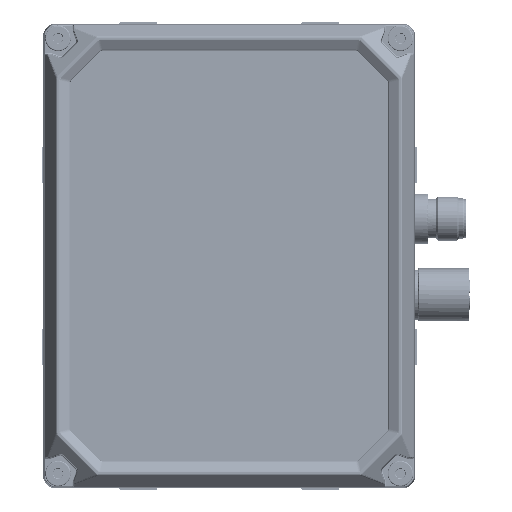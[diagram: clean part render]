
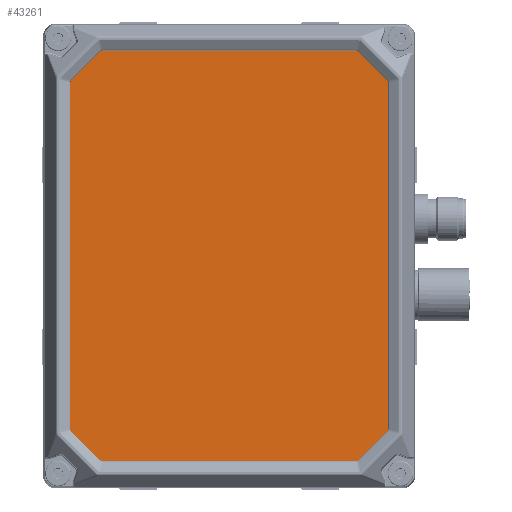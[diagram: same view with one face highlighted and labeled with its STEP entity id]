
A CAD part, top view. The second image highlights one B-rep face of the part: STEP entity #43261.
In plain terms, the highlighted planar face has unit normal (0, 0, 1).
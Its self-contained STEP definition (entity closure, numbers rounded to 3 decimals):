
#43261=ADVANCED_FACE('',(#52599),#46792,.F.);
#46792=PLANE('',#147945);
#52599=FACE_OUTER_BOUND('',#60115,.T.);
#60115=EDGE_LOOP('',(#90673,#90674,#90675,#90676,#90677,#90678,#90679,#90680,
#90681,#90682,#90683,#90684,#90685,#90686,#90687,#90688));
#63761=ELLIPSE('',#147937,1.001,1.);
#63762=ELLIPSE('',#147938,1.001,1.);
#63763=ELLIPSE('',#147939,1.001,1.);
#63764=ELLIPSE('',#147940,1.001,1.);
#63765=ELLIPSE('',#147941,1.001,1.);
#63766=ELLIPSE('',#147942,1.001,1.);
#63767=ELLIPSE('',#147943,1.001,1.);
#63768=ELLIPSE('',#147944,1.001,1.);
#90673=ORIENTED_EDGE('',*,*,#122353,.T.);
#90674=ORIENTED_EDGE('',*,*,#122354,.T.);
#90675=ORIENTED_EDGE('',*,*,#122355,.T.);
#90676=ORIENTED_EDGE('',*,*,#122356,.T.);
#90677=ORIENTED_EDGE('',*,*,#122357,.T.);
#90678=ORIENTED_EDGE('',*,*,#122358,.T.);
#90679=ORIENTED_EDGE('',*,*,#122359,.T.);
#90680=ORIENTED_EDGE('',*,*,#122360,.T.);
#90681=ORIENTED_EDGE('',*,*,#122361,.T.);
#90682=ORIENTED_EDGE('',*,*,#122362,.T.);
#90683=ORIENTED_EDGE('',*,*,#122363,.T.);
#90684=ORIENTED_EDGE('',*,*,#122364,.T.);
#90685=ORIENTED_EDGE('',*,*,#122365,.T.);
#90686=ORIENTED_EDGE('',*,*,#122366,.T.);
#90687=ORIENTED_EDGE('',*,*,#122367,.T.);
#90688=ORIENTED_EDGE('',*,*,#122368,.T.);
#106781=VERTEX_POINT('',#262336);
#106782=VERTEX_POINT('',#262337);
#106783=VERTEX_POINT('',#262339);
#106784=VERTEX_POINT('',#262341);
#106785=VERTEX_POINT('',#262343);
#106786=VERTEX_POINT('',#262345);
#106787=VERTEX_POINT('',#262347);
#106788=VERTEX_POINT('',#262349);
#106789=VERTEX_POINT('',#262351);
#106790=VERTEX_POINT('',#262353);
#106791=VERTEX_POINT('',#262355);
#106792=VERTEX_POINT('',#262357);
#106793=VERTEX_POINT('',#262359);
#106794=VERTEX_POINT('',#262361);
#106795=VERTEX_POINT('',#262363);
#106796=VERTEX_POINT('',#262365);
#122353=EDGE_CURVE('',#106781,#106782,#131514,.T.);
#122354=EDGE_CURVE('',#106782,#106783,#63761,.T.);
#122355=EDGE_CURVE('',#106783,#106784,#131515,.T.);
#122356=EDGE_CURVE('',#106784,#106785,#63762,.T.);
#122357=EDGE_CURVE('',#106785,#106786,#131516,.T.);
#122358=EDGE_CURVE('',#106786,#106787,#63763,.T.);
#122359=EDGE_CURVE('',#106787,#106788,#131517,.T.);
#122360=EDGE_CURVE('',#106788,#106789,#63764,.T.);
#122361=EDGE_CURVE('',#106789,#106790,#131518,.T.);
#122362=EDGE_CURVE('',#106790,#106791,#63765,.T.);
#122363=EDGE_CURVE('',#106791,#106792,#131519,.T.);
#122364=EDGE_CURVE('',#106792,#106793,#63766,.T.);
#122365=EDGE_CURVE('',#106793,#106794,#131520,.T.);
#122366=EDGE_CURVE('',#106794,#106795,#63767,.T.);
#122367=EDGE_CURVE('',#106795,#106796,#131521,.T.);
#122368=EDGE_CURVE('',#106796,#106781,#63768,.T.);
#131514=LINE('',#262335,#138209);
#131515=LINE('',#262340,#138210);
#131516=LINE('',#262344,#138211);
#131517=LINE('',#262348,#138212);
#131518=LINE('',#262352,#138213);
#131519=LINE('',#262356,#138214);
#131520=LINE('',#262360,#138215);
#131521=LINE('',#262364,#138216);
#138209=VECTOR('',#173052,1.);
#138210=VECTOR('',#173055,1.);
#138211=VECTOR('',#173058,1.);
#138212=VECTOR('',#173061,1.);
#138213=VECTOR('',#173064,1.);
#138214=VECTOR('',#173067,1.);
#138215=VECTOR('',#173070,1.);
#138216=VECTOR('',#173073,1.);
#147937=AXIS2_PLACEMENT_3D('',#262338,#173053,#173054);
#147938=AXIS2_PLACEMENT_3D('',#262342,#173056,#173057);
#147939=AXIS2_PLACEMENT_3D('',#262346,#173059,#173060);
#147940=AXIS2_PLACEMENT_3D('',#262350,#173062,#173063);
#147941=AXIS2_PLACEMENT_3D('',#262354,#173065,#173066);
#147942=AXIS2_PLACEMENT_3D('',#262358,#173068,#173069);
#147943=AXIS2_PLACEMENT_3D('',#262362,#173071,#173072);
#147944=AXIS2_PLACEMENT_3D('',#262366,#173074,#173075);
#147945=AXIS2_PLACEMENT_3D('',#262367,#173076,#173077);
#173052=DIRECTION('',(0.707,0.707,0.));
#173053=DIRECTION('',(0.,0.,1.));
#173054=DIRECTION('',(0.924,-0.383,0.));
#173055=DIRECTION('',(0.,1.,0.));
#173056=DIRECTION('',(0.,0.,1.));
#173057=DIRECTION('',(0.924,0.383,0.));
#173058=DIRECTION('',(-0.707,0.707,0.));
#173059=DIRECTION('',(0.,0.,1.));
#173060=DIRECTION('',(0.383,0.924,0.));
#173061=DIRECTION('',(-1.,0.,0.));
#173062=DIRECTION('',(0.,0.,1.));
#173063=DIRECTION('',(-0.383,0.924,0.));
#173064=DIRECTION('',(-0.707,-0.707,0.));
#173065=DIRECTION('',(0.,0.,1.));
#173066=DIRECTION('',(-0.924,0.383,0.));
#173067=DIRECTION('',(0.,-1.,0.));
#173068=DIRECTION('',(0.,0.,1.));
#173069=DIRECTION('',(-0.924,-0.383,0.));
#173070=DIRECTION('',(0.707,-0.707,0.));
#173071=DIRECTION('',(0.,0.,1.));
#173072=DIRECTION('',(-0.383,-0.924,0.));
#173073=DIRECTION('',(1.,0.,0.));
#173074=DIRECTION('',(0.,0.,1.));
#173075=DIRECTION('',(0.383,-0.924,0.));
#173076=DIRECTION('',(0.,0.,-1.));
#173077=DIRECTION('',(-1.,0.,0.));
#262335=CARTESIAN_POINT('',(42.8,-46.96,115.5));
#262336=CARTESIAN_POINT('',(34.753,-55.007,115.5));
#262337=CARTESIAN_POINT('',(42.507,-47.253,115.5));
#262338=CARTESIAN_POINT('',(41.799,-46.546,115.5));
#262339=CARTESIAN_POINT('',(42.8,-46.546,115.5));
#262340=CARTESIAN_POINT('',(42.8,46.96,115.5));
#262341=CARTESIAN_POINT('',(42.8,46.546,115.5));
#262342=CARTESIAN_POINT('',(41.799,46.546,115.5));
#262343=CARTESIAN_POINT('',(42.507,47.253,115.5));
#262344=CARTESIAN_POINT('',(34.46,55.3,115.5));
#262345=CARTESIAN_POINT('',(34.753,55.007,115.5));
#262346=CARTESIAN_POINT('',(34.046,54.299,115.5));
#262347=CARTESIAN_POINT('',(34.046,55.3,115.5));
#262348=CARTESIAN_POINT('',(-34.46,55.3,115.5));
#262349=CARTESIAN_POINT('',(-34.046,55.3,115.5));
#262350=CARTESIAN_POINT('',(-34.046,54.299,115.5));
#262351=CARTESIAN_POINT('',(-34.753,55.007,115.5));
#262352=CARTESIAN_POINT('',(-42.8,46.96,115.5));
#262353=CARTESIAN_POINT('',(-42.507,47.253,115.5));
#262354=CARTESIAN_POINT('',(-41.799,46.546,115.5));
#262355=CARTESIAN_POINT('',(-42.8,46.546,115.5));
#262356=CARTESIAN_POINT('',(-42.8,-46.96,115.5));
#262357=CARTESIAN_POINT('',(-42.8,-46.546,115.5));
#262358=CARTESIAN_POINT('',(-41.799,-46.546,115.5));
#262359=CARTESIAN_POINT('',(-42.507,-47.253,115.5));
#262360=CARTESIAN_POINT('',(-34.46,-55.3,115.5));
#262361=CARTESIAN_POINT('',(-34.753,-55.007,115.5));
#262362=CARTESIAN_POINT('',(-34.046,-54.299,115.5));
#262363=CARTESIAN_POINT('',(-34.046,-55.3,115.5));
#262364=CARTESIAN_POINT('',(34.46,-55.3,115.5));
#262365=CARTESIAN_POINT('',(34.046,-55.3,115.5));
#262366=CARTESIAN_POINT('',(34.046,-54.299,115.5));
#262367=CARTESIAN_POINT('',(-42.285,46.747,115.5));
